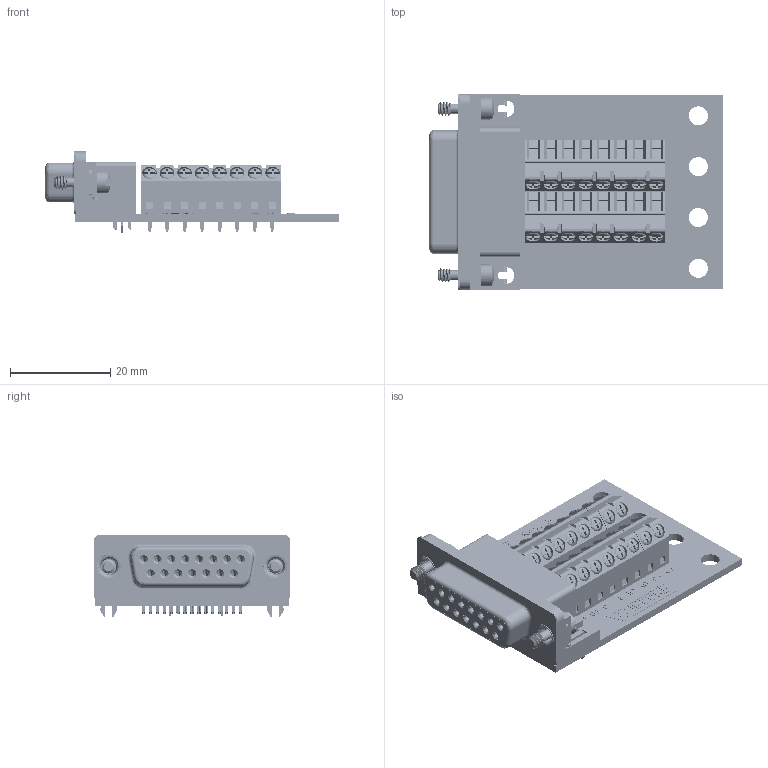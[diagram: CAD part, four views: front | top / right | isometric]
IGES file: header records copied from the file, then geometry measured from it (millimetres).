
Start section: SolidWorks IGES file using analytic representation for surfaces
Global section: file name: C:\Users\sandheep\Dropbox\~PDMTEMP\Copied Assy Files\BRKSD15F-C.igs; native system: SolidWorks 2014; preprocessor: SolidWorks 2014; author: sandheep; date: 150914.191043; units: millimetre
Bounding box: 58.6 x 39.24 x 16.32 mm (x, y, z)
Surface area: 18264.1 mm2 (no closed solid volume)
Topology: 0 solids, 0 shells, 7194 faces, 50914 edges, 50913 vertices
Faces by surface type: bspline 5918, revolution 1276
